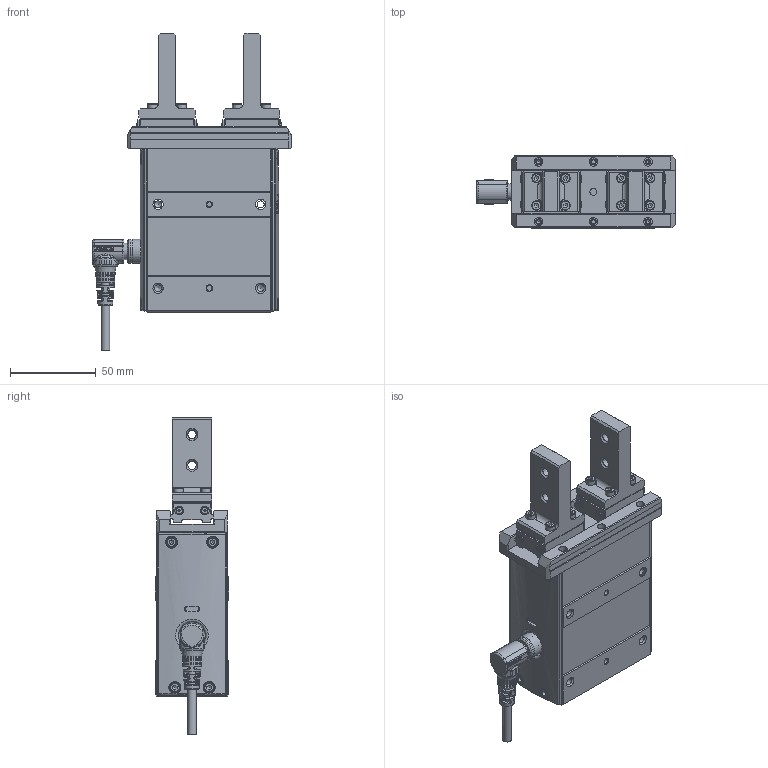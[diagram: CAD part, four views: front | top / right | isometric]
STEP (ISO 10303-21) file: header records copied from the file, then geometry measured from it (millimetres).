
FILE_DESCRIPTION(/* description */ (''),/* implementation_level */ '2;1');
FILE_NAME(/* name */ 'D:\2025.02.25 帶電匯整給泊舟\CHZ2-N22-WW.stp',/* time_stamp */ '2025-02-26T11:03:37+08:00',/* author */ ('T10033'),/* organization */ (''),/* preprocessor_version */ 'ST-DEVELOPER v18.1',/* originating_system */ 'Autodesk Inventor 2020',/* authorisation */ '');
FILE_SCHEMA (('CONFIG_CONTROL_DESIGN'));
Products named in the file (11): CHZ2-N22_(線直出+帶夾具); 12008-000057-02_蓋板修改; 慶陞金屬頭; 6WT3E5DF_Shrinkwrap_1; 63T6E3_Shrinkwrap_1; 43Y6E3TR_Shrinkwrap_1; 326TW3T6SER; 234T63GYETRRRR; 12021-000017_夾具; ANSI B18.3.1M - M3x0.5 x 12(1); M12-14PIN 線端90度接頭-05中繼線
Assembly tree (18 placements, depth 3):
  CHZ2-N22_(線直出+帶夾具)
    12008-000057-02_蓋板修改
    慶陞金屬頭
    6WT3E5DF_Shrinkwrap_1
    63T6E3_Shrinkwrap_1
    43Y6E3TR_Shrinkwrap_1
    326TW3T6SER
      12021-000017_夾具
      ANSI B18.3.1M - M3x0.5 x 12(1)  x4
    234T63GYETRRRR
      12021-000017_夾具
      ANSI B18.3.1M - M3x0.5 x 12(1)  x4
    M12-14PIN 線端90度接頭-05中繼線
Bounding box: 116.3 x 43 x 185.5 mm (x, y, z)
Volume: 389159.5 mm3; surface area: 93914.9 mm2
Topology: 54 solids, 59 shells, 2735 faces, 7410 edges, 4928 vertices
Faces by surface type: plane 1396, cylinder 612, cone 423, bspline 155, torus 129, sphere 20
Full cylindrical faces by diameter (mm): 0.6 x14, 0.65 x14, 1 x14, 2.013 x8, 2.224 x8, 2.459 x22, 2.5 x8, 2.7 x8, 2.8 x3, 3 x30, 3.2 x8, 3.4 x6, 4 x3, 4.134 x12, 4.917 x4, 5 x15, 5.5 x20, 6.647 x2, 8 x3, 8.9 x1, 9.5 x2, 9.6 x1, 10.5 x2, 10.9 x1, 11 x2, 11.2 x1, 11.25 x1, 12 x1, 13 x1, 13.8 x1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
Entity records: 112473 total; most frequent: CARTESIAN_POINT 43366, DIRECTION 13974, ORIENTED_EDGE 13902, EDGE_CURVE 6969, AXIS2_PLACEMENT_3D 5268, VERTEX_POINT 4642, LINE 3438, VECTOR 3438
